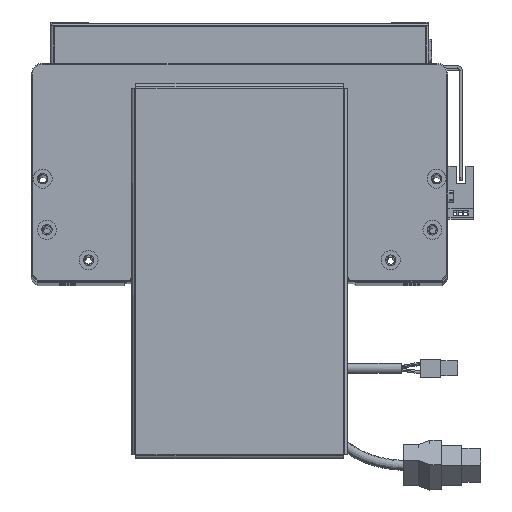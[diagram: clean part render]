
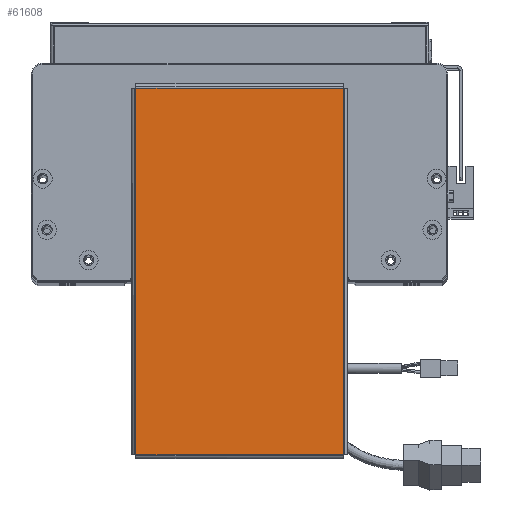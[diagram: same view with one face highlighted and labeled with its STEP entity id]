
A CAD part, top view. The second image highlights one B-rep face of the part: STEP entity #61608.
In plain terms, the highlighted planar face has unit normal (0, 0, 1).
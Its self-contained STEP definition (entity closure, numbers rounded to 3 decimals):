
#253 = VERTEX_POINT ( 'NONE', #36932 ) ;
#1628 = VERTEX_POINT ( 'NONE', #9384 ) ;
#4334 = EDGE_CURVE ( 'NONE', #33979, #253, #21332, .T. ) ;
#7869 = VECTOR ( 'NONE', #25916, 1000. ) ;
#9384 = CARTESIAN_POINT ( 'NONE',  ( -96.763, -54.763, 0. ) ) ;
#12438 = EDGE_CURVE ( 'NONE', #24408, #1628, #35562, .T. ) ;
#12685 = EDGE_LOOP ( 'NONE', ( #55896, #51976, #60432, #16762 ) ) ;
#14181 = VECTOR ( 'NONE', #50942, 1000. ) ;
#15218 = CARTESIAN_POINT ( 'NONE',  ( -96.763, 54.763, 0. ) ) ;
#15744 = CARTESIAN_POINT ( 'NONE',  ( -96.763, 54.793, 0. ) ) ;
#16762 = ORIENTED_EDGE ( 'NONE', *, *, #12438, .T. ) ;
#16940 = CARTESIAN_POINT ( 'NONE',  ( 96.763, -54.763, 0. ) ) ;
#19760 = FACE_OUTER_BOUND ( 'NONE', #12685, .T. ) ;
#19763 = PLANE ( 'NONE',  #23322 ) ;
#20647 = CARTESIAN_POINT ( 'NONE',  ( -96.793, -54.763, 0. ) ) ;
#21332 = LINE ( 'NONE', #40938, #7869 ) ;
#23322 = AXIS2_PLACEMENT_3D ( 'NONE', #24883, #39268, #60292 ) ;
#24408 = VERTEX_POINT ( 'NONE', #15218 ) ;
#24883 = CARTESIAN_POINT ( 'NONE',  ( 0., 0., 0. ) ) ;
#25916 = DIRECTION ( 'NONE',  ( 0., 1., 0. ) ) ;
#30402 = LINE ( 'NONE', #61288, #58171 ) ;
#30617 = VECTOR ( 'NONE', #30819, 1000. ) ;
#30819 = DIRECTION ( 'NONE',  ( 1., 0., 0. ) ) ;
#33979 = VERTEX_POINT ( 'NONE', #16940 ) ;
#35562 = LINE ( 'NONE', #15744, #14181 ) ;
#36932 = CARTESIAN_POINT ( 'NONE',  ( 96.763, 54.763, 0. ) ) ;
#39268 = DIRECTION ( 'NONE',  ( 0., 0., 1. ) ) ;
#40868 = EDGE_CURVE ( 'NONE', #253, #24408, #30402, .T. ) ;
#40938 = CARTESIAN_POINT ( 'NONE',  ( 96.763, -54.793, 0. ) ) ;
#47263 = LINE ( 'NONE', #20647, #30617 ) ;
#50942 = DIRECTION ( 'NONE',  ( 0., -1., 0. ) ) ;
#51976 = ORIENTED_EDGE ( 'NONE', *, *, #4334, .T. ) ;
#55896 = ORIENTED_EDGE ( 'NONE', *, *, #56939, .T. ) ;
#56434 = DIRECTION ( 'NONE',  ( -1., 0., 0. ) ) ;
#56939 = EDGE_CURVE ( 'NONE', #1628, #33979, #47263, .T. ) ;
#58171 = VECTOR ( 'NONE', #56434, 1000. ) ;
#60292 = DIRECTION ( 'NONE',  ( 1., 0., 0. ) ) ;
#60432 = ORIENTED_EDGE ( 'NONE', *, *, #40868, .T. ) ;
#61288 = CARTESIAN_POINT ( 'NONE',  ( 96.793, 54.763, 0. ) ) ;
#61608 = ADVANCED_FACE ( 'NONE', ( #19760 ), #19763, .T. ) ;
